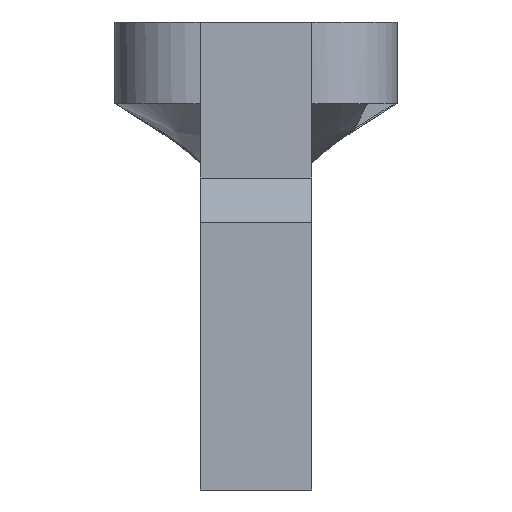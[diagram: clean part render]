
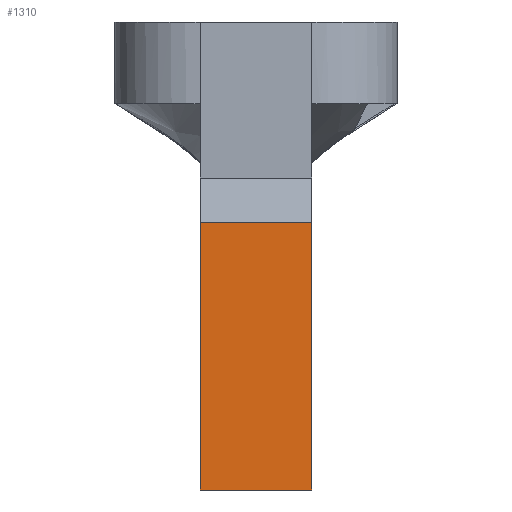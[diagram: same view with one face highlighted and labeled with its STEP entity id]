
A CAD part, left-side view. The second image highlights one B-rep face of the part: STEP entity #1310.
In plain terms, the highlighted planar face has unit normal (-1, 0, 0).
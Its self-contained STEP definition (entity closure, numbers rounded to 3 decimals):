
#1310=ADVANCED_FACE('',(#11047),#11049,.T.);
#11047=FACE_BOUND('',#11048,.T.);
#11048=EDGE_LOOP('',(#12798,#12799,#12800,#12801));
#11049=PLANE('',#11050);
#11050=AXIS2_PLACEMENT_3D('',#11051,#11052,#11053);
#11051=CARTESIAN_POINT('',(-106.,-81.5,-159.5));
#11052=DIRECTION('',(-1.,0.,0.));
#11053=DIRECTION('',(0.,0.,1.));
#12798=ORIENTED_EDGE('',*,*,#13369,.F.);
#12799=ORIENTED_EDGE('',*,*,#13357,.F.);
#12800=ORIENTED_EDGE('',*,*,#13370,.T.);
#12801=ORIENTED_EDGE('',*,*,#13371,.T.);
#13357=EDGE_CURVE('',#13993,#13995,#13996,.T.);
#13369=EDGE_CURVE('',#13995,#14018,#14019,.T.);
#13370=EDGE_CURVE('',#13993,#14020,#14021,.T.);
#13371=EDGE_CURVE('',#14020,#14018,#14022,.T.);
#13993=VERTEX_POINT('',#18918);
#13995=VERTEX_POINT('',#18922);
#13996=LINE('',#18923,#18924);
#14018=VERTEX_POINT('',#19189);
#14019=LINE('',#19190,#19191);
#14020=VERTEX_POINT('',#19193);
#14021=LINE('',#19194,#19195);
#14022=LINE('',#19197,#19198);
#18918=CARTESIAN_POINT('',(-106.,-81.5,-159.5));
#18922=CARTESIAN_POINT('',(-106.,-81.5,-123.5));
#18923=CARTESIAN_POINT('',(-106.,-81.5,-159.5));
#18924=VECTOR('',#18925,1.);
#18925=DIRECTION('',(0.,0.,1.));
#19189=CARTESIAN_POINT('',(-106.,-96.5,-123.5));
#19190=CARTESIAN_POINT('',(-106.,-81.5,-123.5));
#19191=VECTOR('',#19192,1.);
#19192=DIRECTION('',(0.,-1.,0.));
#19193=CARTESIAN_POINT('',(-106.,-96.5,-159.5));
#19194=CARTESIAN_POINT('',(-106.,-81.5,-159.5));
#19195=VECTOR('',#19196,1.);
#19196=DIRECTION('',(0.,-1.,0.));
#19197=CARTESIAN_POINT('',(-106.,-96.5,-159.5));
#19198=VECTOR('',#19199,1.);
#19199=DIRECTION('',(0.,0.,1.));
